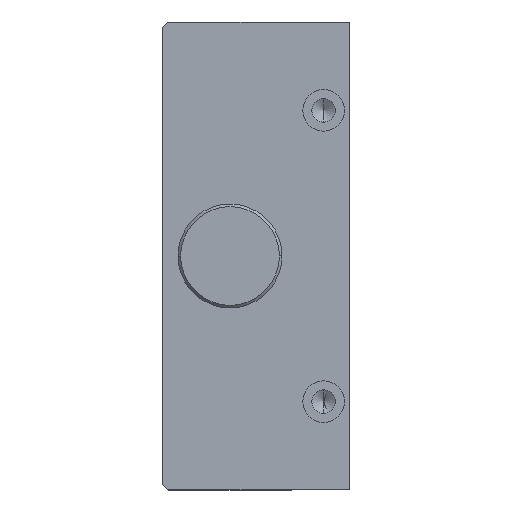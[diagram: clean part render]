
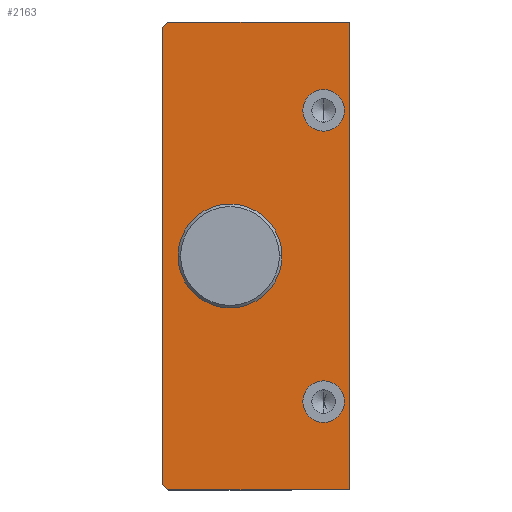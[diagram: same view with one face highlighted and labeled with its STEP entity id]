
A CAD part, left-side view. The second image highlights one B-rep face of the part: STEP entity #2163.
In plain terms, the highlighted planar face has unit normal (-1, 0, 0).
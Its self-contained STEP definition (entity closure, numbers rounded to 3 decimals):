
#36 = AXIS2_PLACEMENT_3D ( 'NONE', #2631, #3000, #770 ) ;
#42 = VECTOR ( 'NONE', #4435, 1000. ) ;
#48 = VERTEX_POINT ( 'NONE', #409 ) ;
#79 = CARTESIAN_POINT ( 'NONE',  ( -14.459, 31.728, 123.316 ) ) ;
#158 = EDGE_LOOP ( 'NONE', ( #3427, #1196, #1213, #3153, #2078, #1353 ) ) ;
#163 = DIRECTION ( 'NONE',  ( 0., 0., 1. ) ) ;
#186 = DIRECTION ( 'NONE',  ( -1., 0., 0. ) ) ;
#298 = CARTESIAN_POINT ( 'NONE',  ( -14.459, 67.728, 33.316 ) ) ;
#389 = VERTEX_POINT ( 'NONE', #2366 ) ;
#409 = CARTESIAN_POINT ( 'NONE',  ( -14.459, 31.728, 33.316 ) ) ;
#439 = VECTOR ( 'NONE', #2385, 1000. ) ;
#505 = CARTESIAN_POINT ( 'NONE',  ( -14.459, 66.728, 123.316 ) ) ;
#561 = CIRCLE ( 'NONE', #36, 4. ) ;
#650 = AXIS2_PLACEMENT_3D ( 'NONE', #2572, #1292, #3015 ) ;
#714 = CARTESIAN_POINT ( 'NONE',  ( -14.459, 67.728, 123.316 ) ) ;
#770 = DIRECTION ( 'NONE',  ( 0., 0., 1. ) ) ;
#783 = ORIENTED_EDGE ( 'NONE', *, *, #4524, .F. ) ;
#784 = CARTESIAN_POINT ( 'NONE',  ( -14.459, 31.728, 123.316 ) ) ;
#861 = VECTOR ( 'NONE', #1861, 1000. ) ;
#928 = ORIENTED_EDGE ( 'NONE', *, *, #4610, .F. ) ;
#988 = CARTESIAN_POINT ( 'NONE',  ( -14.459, 36.728, 46.316 ) ) ;
#989 = VERTEX_POINT ( 'NONE', #505 ) ;
#1112 = VERTEX_POINT ( 'NONE', #988 ) ;
#1190 = VERTEX_POINT ( 'NONE', #1553 ) ;
#1196 = ORIENTED_EDGE ( 'NONE', *, *, #2819, .T. ) ;
#1209 = LINE ( 'NONE', #298, #3077 ) ;
#1212 = EDGE_CURVE ( 'NONE', #4320, #48, #1748, .T. ) ;
#1213 = ORIENTED_EDGE ( 'NONE', *, *, #2233, .T. ) ;
#1233 = EDGE_LOOP ( 'NONE', ( #2936, #928 ) ) ;
#1292 = DIRECTION ( 'NONE',  ( -1., 0., 0. ) ) ;
#1353 = ORIENTED_EDGE ( 'NONE', *, *, #1212, .F. ) ;
#1364 = DIRECTION ( 'NONE',  ( 0., -1., 0. ) ) ;
#1390 = ORIENTED_EDGE ( 'NONE', *, *, #4361, .F. ) ;
#1401 = CARTESIAN_POINT ( 'NONE',  ( -14.459, 54.728, 74.916 ) ) ;
#1480 = EDGE_CURVE ( 'NONE', #1112, #2161, #561, .T. ) ;
#1495 = AXIS2_PLACEMENT_3D ( 'NONE', #3792, #1558, #4156 ) ;
#1507 = FACE_BOUND ( 'NONE', #2921, .T. ) ;
#1553 = CARTESIAN_POINT ( 'NONE',  ( -14.459, 67.728, 122.316 ) ) ;
#1558 = DIRECTION ( 'NONE',  ( -1., 0., 0. ) ) ;
#1568 = EDGE_CURVE ( 'NONE', #389, #48, #1209, .T. ) ;
#1571 = DIRECTION ( 'NONE',  ( 0., 0.707, -0.707 ) ) ;
#1630 = VERTEX_POINT ( 'NONE', #3866 ) ;
#1729 = CARTESIAN_POINT ( 'NONE',  ( -14.459, 54.728, 78.316 ) ) ;
#1735 = FACE_BOUND ( 'NONE', #1233, .T. ) ;
#1748 = LINE ( 'NONE', #79, #2966 ) ;
#1861 = DIRECTION ( 'NONE',  ( 0., -0.707, -0.707 ) ) ;
#1950 = CIRCLE ( 'NONE', #650, 3.4 ) ;
#2078 = ORIENTED_EDGE ( 'NONE', *, *, #1568, .T. ) ;
#2087 = DIRECTION ( 'NONE',  ( 0., 0., 1. ) ) ;
#2092 = AXIS2_PLACEMENT_3D ( 'NONE', #4625, #2386, #163 ) ;
#2124 = LINE ( 'NONE', #714, #42 ) ;
#2125 = DIRECTION ( 'NONE',  ( 1., 0., 0. ) ) ;
#2135 = VERTEX_POINT ( 'NONE', #3704 ) ;
#2141 = EDGE_CURVE ( 'NONE', #4030, #389, #2718, .T. ) ;
#2161 = VERTEX_POINT ( 'NONE', #3348 ) ;
#2163 = ADVANCED_FACE ( 'NONE', ( #1507, #4583, #1735, #2477 ), #4399, .F. ) ;
#2233 = EDGE_CURVE ( 'NONE', #1190, #4030, #2124, .T. ) ;
#2263 = EDGE_LOOP ( 'NONE', ( #783, #3489 ) ) ;
#2302 = LINE ( 'NONE', #4624, #439 ) ;
#2366 = CARTESIAN_POINT ( 'NONE',  ( -14.459, 66.728, 33.316 ) ) ;
#2383 = AXIS2_PLACEMENT_3D ( 'NONE', #2410, #186, #2788 ) ;
#2385 = DIRECTION ( 'NONE',  ( 0., -1., 0. ) ) ;
#2386 = DIRECTION ( 'NONE',  ( -1., 0., 0. ) ) ;
#2402 = VERTEX_POINT ( 'NONE', #3885 ) ;
#2404 = CIRCLE ( 'NONE', #3644, 3.4 ) ;
#2409 = VECTOR ( 'NONE', #1571, 1000. ) ;
#2410 = CARTESIAN_POINT ( 'NONE',  ( -14.459, 36.728, 106.316 ) ) ;
#2414 = EDGE_CURVE ( 'NONE', #989, #4320, #2302, .T. ) ;
#2477 = FACE_OUTER_BOUND ( 'NONE', #158, .T. ) ;
#2507 = DIRECTION ( 'NONE',  ( 0., 1., 0. ) ) ;
#2512 = EDGE_CURVE ( 'NONE', #1630, #4794, #1950, .T. ) ;
#2572 = CARTESIAN_POINT ( 'NONE',  ( -14.459, 54.728, 78.316 ) ) ;
#2584 = CIRCLE ( 'NONE', #2092, 4. ) ;
#2631 = CARTESIAN_POINT ( 'NONE',  ( -14.459, 36.728, 50.316 ) ) ;
#2718 = LINE ( 'NONE', #4459, #861 ) ;
#2788 = DIRECTION ( 'NONE',  ( 0., 0., 1. ) ) ;
#2814 = CIRCLE ( 'NONE', #1495, 4. ) ;
#2819 = EDGE_CURVE ( 'NONE', #989, #1190, #3409, .T. ) ;
#2921 = EDGE_LOOP ( 'NONE', ( #1390, #4296 ) ) ;
#2936 = ORIENTED_EDGE ( 'NONE', *, *, #2512, .F. ) ;
#2966 = VECTOR ( 'NONE', #4186, 1000. ) ;
#3000 = DIRECTION ( 'NONE',  ( -1., 0., 0. ) ) ;
#3015 = DIRECTION ( 'NONE',  ( 0., 0., 1. ) ) ;
#3077 = VECTOR ( 'NONE', #1364, 1000. ) ;
#3153 = ORIENTED_EDGE ( 'NONE', *, *, #2141, .T. ) ;
#3330 = CARTESIAN_POINT ( 'NONE',  ( -14.459, 67.728, 123.316 ) ) ;
#3348 = CARTESIAN_POINT ( 'NONE',  ( -14.459, 36.728, 54.316 ) ) ;
#3409 = LINE ( 'NONE', #3838, #2409 ) ;
#3427 = ORIENTED_EDGE ( 'NONE', *, *, #2414, .F. ) ;
#3489 = ORIENTED_EDGE ( 'NONE', *, *, #3962, .F. ) ;
#3644 = AXIS2_PLACEMENT_3D ( 'NONE', #1729, #4317, #2087 ) ;
#3648 = CIRCLE ( 'NONE', #2383, 4. ) ;
#3704 = CARTESIAN_POINT ( 'NONE',  ( -14.459, 36.728, 102.316 ) ) ;
#3792 = CARTESIAN_POINT ( 'NONE',  ( -14.459, 36.728, 50.316 ) ) ;
#3838 = CARTESIAN_POINT ( 'NONE',  ( -14.459, 66.728, 123.316 ) ) ;
#3866 = CARTESIAN_POINT ( 'NONE',  ( -14.459, 54.728, 81.716 ) ) ;
#3885 = CARTESIAN_POINT ( 'NONE',  ( -14.459, 36.728, 110.316 ) ) ;
#3962 = EDGE_CURVE ( 'NONE', #2135, #2402, #2584, .T. ) ;
#4030 = VERTEX_POINT ( 'NONE', #4279 ) ;
#4156 = DIRECTION ( 'NONE',  ( 0., 0., 1. ) ) ;
#4186 = DIRECTION ( 'NONE',  ( 0., 0., -1. ) ) ;
#4279 = CARTESIAN_POINT ( 'NONE',  ( -14.459, 67.728, 34.316 ) ) ;
#4296 = ORIENTED_EDGE ( 'NONE', *, *, #1480, .F. ) ;
#4317 = DIRECTION ( 'NONE',  ( -1., 0., 0. ) ) ;
#4320 = VERTEX_POINT ( 'NONE', #784 ) ;
#4337 = AXIS2_PLACEMENT_3D ( 'NONE', #3330, #2125, #2507 ) ;
#4361 = EDGE_CURVE ( 'NONE', #2161, #1112, #2814, .T. ) ;
#4399 = PLANE ( 'NONE',  #4337 ) ;
#4435 = DIRECTION ( 'NONE',  ( 0., 0., -1. ) ) ;
#4459 = CARTESIAN_POINT ( 'NONE',  ( -14.459, 67.728, 34.316 ) ) ;
#4524 = EDGE_CURVE ( 'NONE', #2402, #2135, #3648, .T. ) ;
#4583 = FACE_BOUND ( 'NONE', #2263, .T. ) ;
#4610 = EDGE_CURVE ( 'NONE', #4794, #1630, #2404, .T. ) ;
#4624 = CARTESIAN_POINT ( 'NONE',  ( -14.459, 67.728, 123.316 ) ) ;
#4625 = CARTESIAN_POINT ( 'NONE',  ( -14.459, 36.728, 106.316 ) ) ;
#4794 = VERTEX_POINT ( 'NONE', #1401 ) ;
